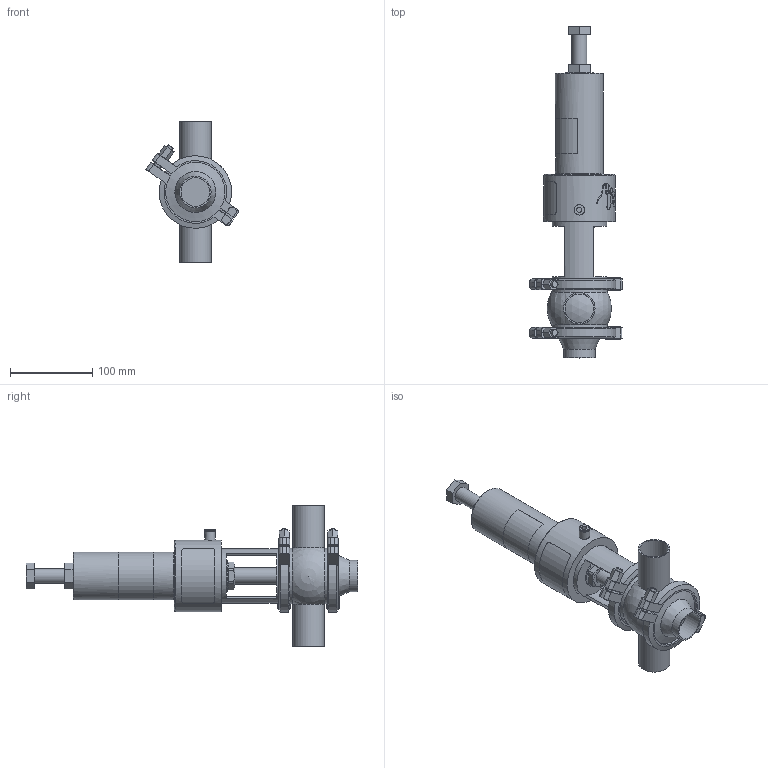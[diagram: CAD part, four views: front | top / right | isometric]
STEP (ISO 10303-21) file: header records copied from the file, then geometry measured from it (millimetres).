
FILE_DESCRIPTION (( 'STEP AP214' ), '1' );
FILE_NAME ('INNOVA J T W OD 1½_10.245.16.0002.STEP', '2024-08-08T08:03:32', ( '' ), ( '' ), 'SwSTEP 2.0', 'SolidWorks 2023', '' );
FILE_SCHEMA (( 'AUTOMOTIVE_DESIGN' ));
Length unit declared in the file: millimetre
Products named in the file (6): 10.247.15.0001_OD 1½"; 10.240.15.0007_OD 1½"; 10.240.15.0001_DN 040; 10.240.15.0010_DN 040; INNOVA J T W OD 1½_10.245.16.0002; 10.245.15.0001_T1 SE NC_DN 025
Assembly tree (6 placements, depth 2):
  INNOVA J T W OD 1½_10.245.16.0002
    10.240.15.0007_OD 1½"
    10.247.15.0001_OD 1½"
    10.240.15.0010_DN 040
    10.245.15.0001_T1 SE NC_DN 025
    10.240.15.0001_DN 040  x2
Bounding box: 112.12 x 402.5 x 170 mm (x, y, z)
Volume: 1145278.8 mm3; surface area: 184087.3 mm2
Topology: 6 solids, 6 shells, 381 faces, 1008 edges, 664 vertices
Faces by surface type: plane 191, cylinder 82, bspline 78, cone 26, sphere 3, torus 1
Full cylindrical faces by diameter (mm): 6.15 x1, 8 x4, 10.5 x1, 12.5 x2, 18 x1, 20 x1, 34.8 x3, 36.5 x1, 38.1 x3, 58 x1, 66 x1, 67.5 x2, 79.5 x4, 87 x1
Entity records: 18924 total; most frequent: CARTESIAN_POINT 9955, ORIENTED_EDGE 1582, DIRECTION 1195, EDGE_CURVE 791, VERTEX_POINT 544, AXIS2_PLACEMENT_3D 445, EDGE_LOOP 393, FACE_OUTER_BOUND 349
